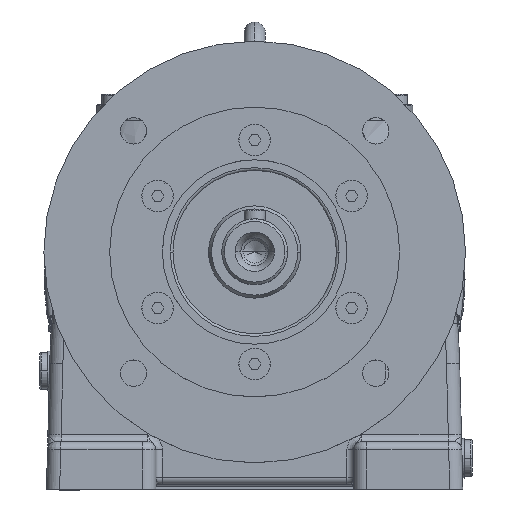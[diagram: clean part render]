
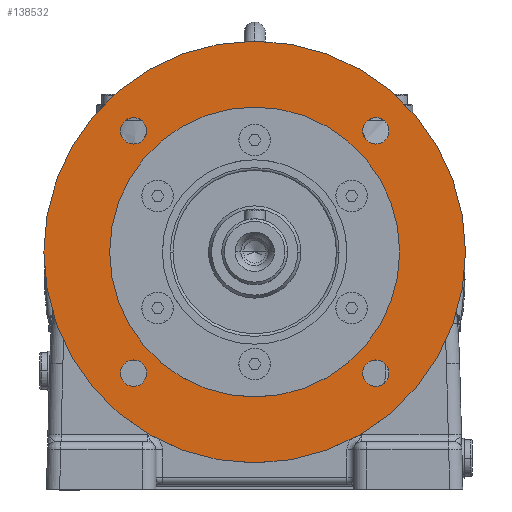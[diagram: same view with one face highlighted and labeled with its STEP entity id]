
A CAD part, top view. The second image highlights one B-rep face of the part: STEP entity #138532.
In plain terms, the highlighted planar face has unit normal (0, 0, 1).
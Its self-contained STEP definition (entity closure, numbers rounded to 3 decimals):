
#59 = EDGE_CURVE ( 'NONE', #143762, #142903, #20978, .T. ) ;
#20978 = CIRCLE ( 'NONE', #21135, 80. ) ;
#21130 = DIRECTION ( 'NONE',  ( 1., 0., 0. ) ) ;
#21132 = DIRECTION ( 'NONE',  ( 0., 0., 1. ) ) ;
#21134 = CARTESIAN_POINT ( 'NONE',  ( 0., 0., -5. ) ) ;
#21135 = AXIS2_PLACEMENT_3D ( 'NONE', #21134, #21132, #21130 ) ;
#108056 = VERTEX_POINT ( 'NONE', #128691 ) ;
#128691 = CARTESIAN_POINT ( 'NONE',  ( -50.962, -45.962, -5. ) ) ;
#129683 = DIRECTION ( 'NONE',  ( 1., 0., 0. ) ) ;
#129685 = DIRECTION ( 'NONE',  ( 0., 0., 1. ) ) ;
#129686 = CARTESIAN_POINT ( 'NONE',  ( 0., 0., -5. ) ) ;
#129687 = AXIS2_PLACEMENT_3D ( 'NONE', #129686, #129685, #129683 ) ;
#129688 = CIRCLE ( 'NONE', #129687, 55. ) ;
#129762 = CARTESIAN_POINT ( 'NONE',  ( -55., 0., -5. ) ) ;
#129764 = CARTESIAN_POINT ( 'NONE',  ( 55., 0., -5. ) ) ;
#129918 = DIRECTION ( 'NONE',  ( 1., 0., 0. ) ) ;
#129919 = DIRECTION ( 'NONE',  ( 0., 0., 1. ) ) ;
#129921 = CARTESIAN_POINT ( 'NONE',  ( 0., 0., -5. ) ) ;
#129922 = AXIS2_PLACEMENT_3D ( 'NONE', #129921, #129919, #129918 ) ;
#129924 = CIRCLE ( 'NONE', #129922, 55. ) ;
#129997 = FACE_BOUND ( 'NONE', #138526, .T. ) ;
#129999 = FACE_BOUND ( 'NONE', #138520, .T. ) ;
#130000 = FACE_OUTER_BOUND ( 'NONE', #138515, .T. ) ;
#130002 = FACE_BOUND ( 'NONE', #138555, .T. ) ;
#130004 = FACE_BOUND ( 'NONE', #138546, .T. ) ;
#130007 = FACE_BOUND ( 'NONE', #138535, .T. ) ;
#130018 = DIRECTION ( 'NONE',  ( 1., 0., 0. ) ) ;
#130020 = DIRECTION ( 'NONE',  ( 0., 0., 1. ) ) ;
#130022 = CARTESIAN_POINT ( 'NONE',  ( 45.962, 45.962, -5. ) ) ;
#130023 = AXIS2_PLACEMENT_3D ( 'NONE', #130022, #130020, #130018 ) ;
#130024 = CIRCLE ( 'NONE', #130023, 5. ) ;
#130028 = DIRECTION ( 'NONE',  ( 1., 0., 0. ) ) ;
#130030 = DIRECTION ( 'NONE',  ( 0., 0., 1. ) ) ;
#130032 = CARTESIAN_POINT ( 'NONE',  ( -45.962, -45.962, -5. ) ) ;
#130033 = AXIS2_PLACEMENT_3D ( 'NONE', #130032, #130030, #130028 ) ;
#130034 = CIRCLE ( 'NONE', #130033, 5. ) ;
#130038 = DIRECTION ( 'NONE',  ( 1., 0., 0. ) ) ;
#130039 = DIRECTION ( 'NONE',  ( 0., 0., 1. ) ) ;
#130041 = CARTESIAN_POINT ( 'NONE',  ( 0., 0., -5. ) ) ;
#130042 = AXIS2_PLACEMENT_3D ( 'NONE', #130041, #130039, #130038 ) ;
#130046 = CIRCLE ( 'NONE', #130042, 80. ) ;
#130061 = DIRECTION ( 'NONE',  ( 1., 0., 0. ) ) ;
#130064 = DIRECTION ( 'NONE',  ( 0., 0., 1. ) ) ;
#130065 = CARTESIAN_POINT ( 'NONE',  ( 45.962, -45.962, -5. ) ) ;
#130066 = AXIS2_PLACEMENT_3D ( 'NONE', #130065, #130064, #130061 ) ;
#130067 = CIRCLE ( 'NONE', #130066, 5. ) ;
#130070 = DIRECTION ( 'NONE',  ( 1., 0., 0. ) ) ;
#130072 = DIRECTION ( 'NONE',  ( 0., 0., 1. ) ) ;
#130075 = CARTESIAN_POINT ( 'NONE',  ( -45.962, 45.962, -5. ) ) ;
#130077 = AXIS2_PLACEMENT_3D ( 'NONE', #130075, #130072, #130070 ) ;
#130079 = CIRCLE ( 'NONE', #130077, 5. ) ;
#130081 = DIRECTION ( 'NONE',  ( -1., 0., 0. ) ) ;
#130083 = DIRECTION ( 'NONE',  ( 0., 0., -1. ) ) ;
#130085 = CARTESIAN_POINT ( 'NONE',  ( 0., 55., -5. ) ) ;
#130087 = AXIS2_PLACEMENT_3D ( 'NONE', #130085, #130083, #130081 ) ;
#130092 = PLANE ( 'NONE',  #130087 ) ;
#132709 = CARTESIAN_POINT ( 'NONE',  ( -40.962, 45.962, -5. ) ) ;
#132710 = DIRECTION ( 'NONE',  ( 1., 0., 0. ) ) ;
#132711 = DIRECTION ( 'NONE',  ( 0., 0., 1. ) ) ;
#132712 = CARTESIAN_POINT ( 'NONE',  ( -45.962, 45.962, -5. ) ) ;
#132713 = AXIS2_PLACEMENT_3D ( 'NONE', #132712, #132711, #132710 ) ;
#132714 = CIRCLE ( 'NONE', #132713, 5. ) ;
#132715 = CARTESIAN_POINT ( 'NONE',  ( -50.962, 45.962, -5. ) ) ;
#132741 = CARTESIAN_POINT ( 'NONE',  ( 50.962, 45.962, -5. ) ) ;
#132742 = DIRECTION ( 'NONE',  ( 1., 0., 0. ) ) ;
#132743 = DIRECTION ( 'NONE',  ( 0., 0., 1. ) ) ;
#132744 = CARTESIAN_POINT ( 'NONE',  ( 45.962, 45.962, -5. ) ) ;
#132745 = AXIS2_PLACEMENT_3D ( 'NONE', #132744, #132743, #132742 ) ;
#132746 = CIRCLE ( 'NONE', #132745, 5. ) ;
#132747 = CARTESIAN_POINT ( 'NONE',  ( 40.962, 45.962, -5. ) ) ;
#134689 = CARTESIAN_POINT ( 'NONE',  ( 40.962, -45.962, -5. ) ) ;
#135048 = CARTESIAN_POINT ( 'NONE',  ( 50.962, -45.962, -5. ) ) ;
#135097 = DIRECTION ( 'NONE',  ( 1., 0., 0. ) ) ;
#135098 = DIRECTION ( 'NONE',  ( 0., 0., 1. ) ) ;
#135099 = CARTESIAN_POINT ( 'NONE',  ( 45.962, -45.962, -5. ) ) ;
#135100 = AXIS2_PLACEMENT_3D ( 'NONE', #135099, #135098, #135097 ) ;
#135101 = CIRCLE ( 'NONE', #135100, 5. ) ;
#135942 = CARTESIAN_POINT ( 'NONE',  ( -80., 0., -5. ) ) ;
#136169 = DIRECTION ( 'NONE',  ( 1., 0., 0. ) ) ;
#136170 = DIRECTION ( 'NONE',  ( 0., 0., 1. ) ) ;
#136171 = AXIS2_PLACEMENT_3D ( 'NONE', #136178, #136170, #136169 ) ;
#136172 = CIRCLE ( 'NONE', #136171, 5. ) ;
#136178 = CARTESIAN_POINT ( 'NONE',  ( -45.962, -45.962, -5. ) ) ;
#136191 = CARTESIAN_POINT ( 'NONE',  ( -40.962, -45.962, -5. ) ) ;
#136999 = CARTESIAN_POINT ( 'NONE',  ( 80., 0., -5. ) ) ;
#138399 = EDGE_CURVE ( 'NONE', #138404, #138406, #129688, .T. ) ;
#138404 = VERTEX_POINT ( 'NONE', #129764 ) ;
#138406 = VERTEX_POINT ( 'NONE', #129762 ) ;
#138511 = ORIENTED_EDGE ( 'NONE', *, *, #138399, .F. ) ;
#138513 = ORIENTED_EDGE ( 'NONE', *, *, #138514, .F. ) ;
#138514 = EDGE_CURVE ( 'NONE', #138406, #138404, #129924, .T. ) ;
#138515 = EDGE_LOOP ( 'NONE', ( #138516, #138517 ) ) ;
#138516 = ORIENTED_EDGE ( 'NONE', *, *, #59, .T. ) ;
#138517 = ORIENTED_EDGE ( 'NONE', *, *, #138518, .T. ) ;
#138518 = EDGE_CURVE ( 'NONE', #142903, #143762, #130046, .T. ) ;
#138520 = EDGE_LOOP ( 'NONE', ( #138521, #138524 ) ) ;
#138521 = ORIENTED_EDGE ( 'NONE', *, *, #138523, .F. ) ;
#138523 = EDGE_CURVE ( 'NONE', #143167, #108056, #130034, .T. ) ;
#138524 = ORIENTED_EDGE ( 'NONE', *, *, #143191, .F. ) ;
#138526 = EDGE_LOOP ( 'NONE', ( #138527, #138630 ) ) ;
#138527 = ORIENTED_EDGE ( 'NONE', *, *, #138528, .F. ) ;
#138528 = EDGE_CURVE ( 'NONE', #140215, #140210, #130024, .T. ) ;
#138532 = ADVANCED_FACE ( 'NONE', ( #130007, #130004, #130002, #130000, #129999, #129997 ), #130092, .F. ) ;
#138535 = EDGE_LOOP ( 'NONE', ( #138537, #138542 ) ) ;
#138537 = ORIENTED_EDGE ( 'NONE', *, *, #138539, .F. ) ;
#138539 = EDGE_CURVE ( 'NONE', #140185, #140180, #130079, .T. ) ;
#138542 = ORIENTED_EDGE ( 'NONE', *, *, #140183, .F. ) ;
#138546 = EDGE_LOOP ( 'NONE', ( #138548, #138552 ) ) ;
#138548 = ORIENTED_EDGE ( 'NONE', *, *, #138550, .F. ) ;
#138550 = EDGE_CURVE ( 'NONE', #142020, #141666, #130067, .T. ) ;
#138552 = ORIENTED_EDGE ( 'NONE', *, *, #142036, .F. ) ;
#138555 = EDGE_LOOP ( 'NONE', ( #138511, #138513 ) ) ;
#138630 = ORIENTED_EDGE ( 'NONE', *, *, #140214, .F. ) ;
#140180 = VERTEX_POINT ( 'NONE', #132715 ) ;
#140183 = EDGE_CURVE ( 'NONE', #140180, #140185, #132714, .T. ) ;
#140185 = VERTEX_POINT ( 'NONE', #132709 ) ;
#140210 = VERTEX_POINT ( 'NONE', #132747 ) ;
#140214 = EDGE_CURVE ( 'NONE', #140210, #140215, #132746, .T. ) ;
#140215 = VERTEX_POINT ( 'NONE', #132741 ) ;
#141666 = VERTEX_POINT ( 'NONE', #134689 ) ;
#142020 = VERTEX_POINT ( 'NONE', #135048 ) ;
#142036 = EDGE_CURVE ( 'NONE', #141666, #142020, #135101, .T. ) ;
#142903 = VERTEX_POINT ( 'NONE', #135942 ) ;
#143167 = VERTEX_POINT ( 'NONE', #136191 ) ;
#143191 = EDGE_CURVE ( 'NONE', #108056, #143167, #136172, .T. ) ;
#143762 = VERTEX_POINT ( 'NONE', #136999 ) ;
